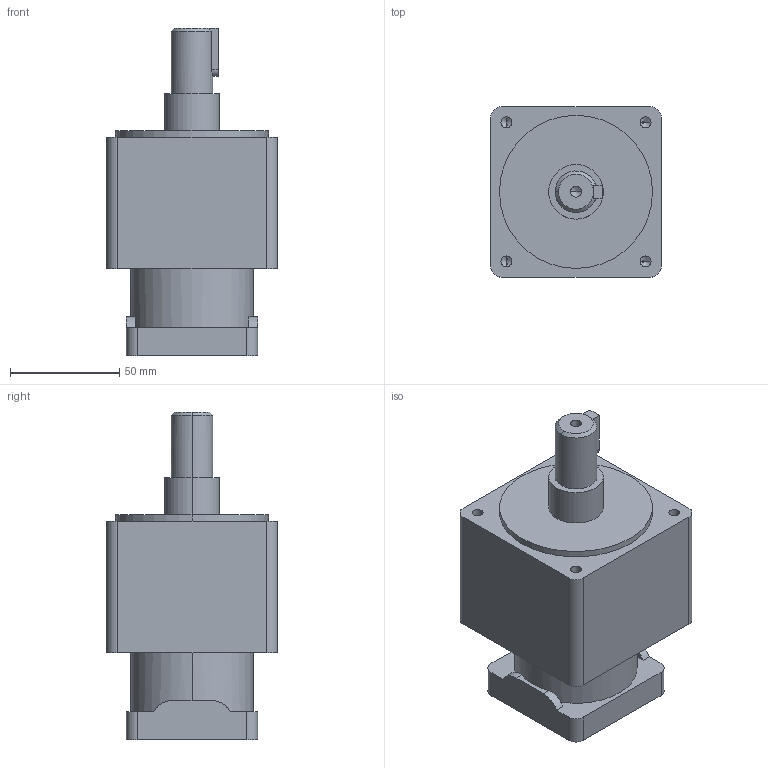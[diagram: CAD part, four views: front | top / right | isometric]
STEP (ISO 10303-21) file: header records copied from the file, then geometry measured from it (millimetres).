
FILE_DESCRIPTION (( 'STEP AP214' ), '1' );
FILE_NAME ('VRSF-80L2.STEP', '2019-09-07T08:46:10', ( '微软用户' ), ( '微软中国' ), 'SwSTEP 2.0', 'SolidWorks 2014', '' );
FILE_SCHEMA (( 'AUTOMOTIVE_DESIGN' ));
Length unit declared in the file: millimetre
Products named in the file (2): VRSF-80L2
Bounding box: 78 x 78 x 150 mm (x, y, z)
Volume: 492632.7 mm3; surface area: 47991.7 mm2
Topology: 2 solids, 2 shells, 721 faces, 2060 edges, 1359 vertices
Faces by surface type: plane 597, bspline 60, cylinder 44, cone 20
Entity records: 30240 total; most frequent: CARTESIAN_POINT 4958, ORIENTED_EDGE 4084, DIRECTION 3335, EDGE_CURVE 2042, LINE 1815, VECTOR 1815, VERTEX_POINT 1359, AXIS2_PLACEMENT_3D 760
